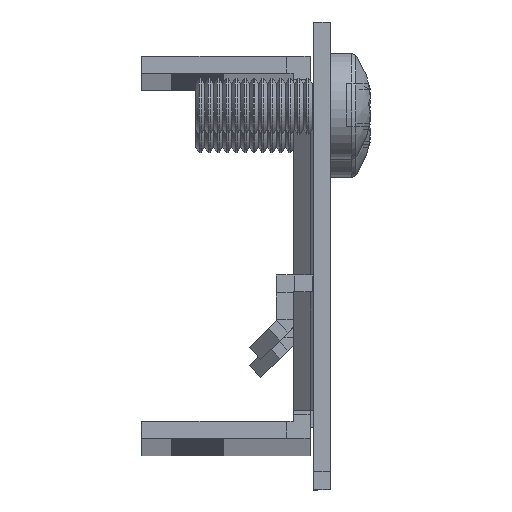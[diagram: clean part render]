
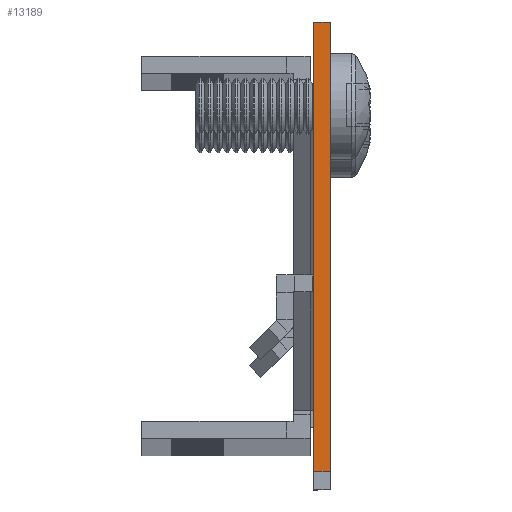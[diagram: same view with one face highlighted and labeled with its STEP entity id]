
A CAD part, top view. The second image highlights one B-rep face of the part: STEP entity #13189.
In plain terms, the highlighted planar face has unit normal (0, 0, 1) as drawn and (-1, 0, 0) by its records, which use the part's own axes.
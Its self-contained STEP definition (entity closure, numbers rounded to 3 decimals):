
#11404 = VERTEX_POINT('',#11405);
#11405 = CARTESIAN_POINT('',(-475.022,20.,1.802));
#11411 = EDGE_CURVE('',#11412,#11404,#11414,.T.);
#11412 = VERTEX_POINT('',#11413);
#11413 = CARTESIAN_POINT('',(-475.022,-20.,1.802));
#11414 = LINE('',#11415,#11416);
#11415 = CARTESIAN_POINT('',(-475.022,14.5,1.802));
#11416 = VECTOR('',#11417,1.);
#11417 = DIRECTION('',(-0.,1.,0.));
#11513 = EDGE_CURVE('',#11514,#11516,#11518,.T.);
#11514 = VERTEX_POINT('',#11515);
#11515 = CARTESIAN_POINT('',(-475.022,-20.,0.302));
#11516 = VERTEX_POINT('',#11517);
#11517 = CARTESIAN_POINT('',(-475.022,20.,0.302));
#11518 = LINE('',#11519,#11520);
#11519 = CARTESIAN_POINT('',(-475.022,0.,
    0.302));
#11520 = VECTOR('',#11521,1.);
#11521 = DIRECTION('',(0.,1.,0.));
#13189 = ADVANCED_FACE('',(#13190),#13206,.T.);
#13190 = FACE_BOUND('',#13191,.T.);
#13191 = EDGE_LOOP('',(#13192,#13193,#13199,#13200));
#13192 = ORIENTED_EDGE('',*,*,#11513,.F.);
#13193 = ORIENTED_EDGE('',*,*,#13194,.T.);
#13194 = EDGE_CURVE('',#11514,#11412,#13195,.T.);
#13195 = LINE('',#13196,#13197);
#13196 = CARTESIAN_POINT('',(-475.022,-20.,0.302));
#13197 = VECTOR('',#13198,1.);
#13198 = DIRECTION('',(0.,0.,1.));
#13199 = ORIENTED_EDGE('',*,*,#11411,.T.);
#13200 = ORIENTED_EDGE('',*,*,#13201,.F.);
#13201 = EDGE_CURVE('',#11516,#11404,#13202,.T.);
#13202 = LINE('',#13203,#13204);
#13203 = CARTESIAN_POINT('',(-475.022,20.,0.302));
#13204 = VECTOR('',#13205,1.);
#13205 = DIRECTION('',(0.,0.,1.));
#13206 = PLANE('',#13207);
#13207 = AXIS2_PLACEMENT_3D('',#13208,#13209,#13210);
#13208 = CARTESIAN_POINT('',(-475.022,14.5,1.802));
#13209 = DIRECTION('',(-1.,0.,0.));
#13210 = DIRECTION('',(0.,0.,1.));
